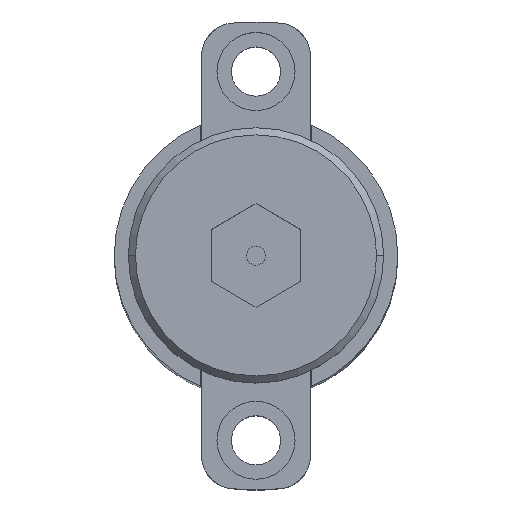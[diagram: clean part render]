
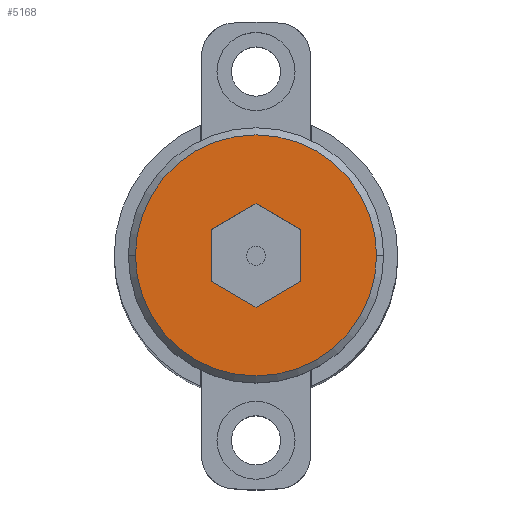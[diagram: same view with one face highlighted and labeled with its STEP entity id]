
A CAD part, top view. The second image highlights one B-rep face of the part: STEP entity #5168.
In plain terms, the highlighted planar face has unit normal (0, 0, 1).
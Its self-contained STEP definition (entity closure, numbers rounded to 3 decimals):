
#403 = LINE ( 'NONE', #8642, #9308 ) ;
#560 = LINE ( 'NONE', #14367, #6364 ) ;
#912 = CARTESIAN_POINT ( 'NONE',  ( 9.5, 5.485, 0. ) ) ;
#1443 = FACE_OUTER_BOUND ( 'NONE', #12398, .T. ) ;
#1773 = CARTESIAN_POINT ( 'NONE',  ( 9.5, 5.485, 0. ) ) ;
#1807 = FACE_BOUND ( 'NONE', #10822, .T. ) ;
#1939 = ORIENTED_EDGE ( 'NONE', *, *, #7110, .F. ) ;
#2616 = ORIENTED_EDGE ( 'NONE', *, *, #6272, .F. ) ;
#2798 = DIRECTION ( 'NONE',  ( 0.866, 0.5, 0. ) ) ;
#2914 = DIRECTION ( 'NONE',  ( 0., -1., 0. ) ) ;
#3087 = VECTOR ( 'NONE', #15045, 1000. ) ;
#3172 = EDGE_CURVE ( 'NONE', #14336, #12021, #403, .T. ) ;
#3197 = DIRECTION ( 'NONE',  ( 0.866, -0.5, 0. ) ) ;
#3394 = CARTESIAN_POINT ( 'NONE',  ( 9.5, -5.485, 0. ) ) ;
#3559 = DIRECTION ( 'NONE',  ( 0., 0., 1. ) ) ;
#3582 = DIRECTION ( 'NONE',  ( 0., 0., 1. ) ) ;
#4004 = VECTOR ( 'NONE', #9043, 1000. ) ;
#4133 = VERTEX_POINT ( 'NONE', #7351 ) ;
#4359 = LINE ( 'NONE', #912, #4004 ) ;
#4423 = CARTESIAN_POINT ( 'NONE',  ( 25.5, 0., 0. ) ) ;
#4625 = CARTESIAN_POINT ( 'NONE',  ( -9.5, -5.485, 0. ) ) ;
#4709 = AXIS2_PLACEMENT_3D ( 'NONE', #13792, #15002, #8005 ) ;
#4832 = ORIENTED_EDGE ( 'NONE', *, *, #6367, .T. ) ;
#4844 = CIRCLE ( 'NONE', #12052, 25.5 ) ;
#5168 = ADVANCED_FACE ( 'NONE', ( #1807, #1443 ), #6839, .F. ) ;
#5464 = VERTEX_POINT ( 'NONE', #9577 ) ;
#5554 = CARTESIAN_POINT ( 'NONE',  ( -25.5, 0., 0. ) ) ;
#5779 = CARTESIAN_POINT ( 'NONE',  ( 0., 10.97, 0. ) ) ;
#6189 = ORIENTED_EDGE ( 'NONE', *, *, #11869, .F. ) ;
#6272 = EDGE_CURVE ( 'NONE', #12625, #14175, #8551, .T. ) ;
#6364 = VECTOR ( 'NONE', #2798, 1000. ) ;
#6367 = EDGE_CURVE ( 'NONE', #13576, #7732, #13628, .T. ) ;
#6839 = PLANE ( 'NONE',  #4709 ) ;
#7110 = EDGE_CURVE ( 'NONE', #14175, #5464, #4359, .T. ) ;
#7232 = ORIENTED_EDGE ( 'NONE', *, *, #3172, .F. ) ;
#7351 = CARTESIAN_POINT ( 'NONE',  ( 0., -10.97, 0. ) ) ;
#7701 = ORIENTED_EDGE ( 'NONE', *, *, #12373, .F. ) ;
#7732 = VERTEX_POINT ( 'NONE', #4423 ) ;
#7864 = CARTESIAN_POINT ( 'NONE',  ( -9.5, -5.485, 0. ) ) ;
#8005 = DIRECTION ( 'NONE',  ( -1., 0., 0. ) ) ;
#8010 = DIRECTION ( 'NONE',  ( 0., 1., 0. ) ) ;
#8184 = VECTOR ( 'NONE', #8010, 1000. ) ;
#8551 = LINE ( 'NONE', #12669, #8184 ) ;
#8642 = CARTESIAN_POINT ( 'NONE',  ( -9.5, 5.485, 0. ) ) ;
#8851 = ORIENTED_EDGE ( 'NONE', *, *, #10316, .T. ) ;
#9043 = DIRECTION ( 'NONE',  ( -0.866, 0.5, 0. ) ) ;
#9148 = CARTESIAN_POINT ( 'NONE',  ( -9.5, 5.485, 0. ) ) ;
#9308 = VECTOR ( 'NONE', #2914, 1000. ) ;
#9577 = CARTESIAN_POINT ( 'NONE',  ( 0., 10.97, 0. ) ) ;
#10083 = AXIS2_PLACEMENT_3D ( 'NONE', #10522, #3559, #11683 ) ;
#10316 = EDGE_CURVE ( 'NONE', #7732, #13576, #4844, .T. ) ;
#10522 = CARTESIAN_POINT ( 'NONE',  ( 0., 0., 0. ) ) ;
#10551 = CARTESIAN_POINT ( 'NONE',  ( 0., 0., 0. ) ) ;
#10822 = EDGE_LOOP ( 'NONE', ( #12314, #1939, #2616, #7701, #6189, #7232 ) ) ;
#11135 = LINE ( 'NONE', #7864, #13832 ) ;
#11683 = DIRECTION ( 'NONE',  ( 1., 0., 0. ) ) ;
#11708 = DIRECTION ( 'NONE',  ( 1., 0., 0. ) ) ;
#11869 = EDGE_CURVE ( 'NONE', #12021, #4133, #11135, .T. ) ;
#12021 = VERTEX_POINT ( 'NONE', #4625 ) ;
#12052 = AXIS2_PLACEMENT_3D ( 'NONE', #10551, #3582, #11708 ) ;
#12314 = ORIENTED_EDGE ( 'NONE', *, *, #14403, .F. ) ;
#12373 = EDGE_CURVE ( 'NONE', #4133, #12625, #560, .T. ) ;
#12398 = EDGE_LOOP ( 'NONE', ( #4832, #8851 ) ) ;
#12625 = VERTEX_POINT ( 'NONE', #3394 ) ;
#12669 = CARTESIAN_POINT ( 'NONE',  ( 9.5, -5.485, 0. ) ) ;
#13576 = VERTEX_POINT ( 'NONE', #5554 ) ;
#13628 = CIRCLE ( 'NONE', #10083, 25.5 ) ;
#13792 = CARTESIAN_POINT ( 'NONE',  ( 0., 25.5, 0. ) ) ;
#13832 = VECTOR ( 'NONE', #3197, 1000. ) ;
#14175 = VERTEX_POINT ( 'NONE', #1773 ) ;
#14336 = VERTEX_POINT ( 'NONE', #9148 ) ;
#14367 = CARTESIAN_POINT ( 'NONE',  ( 0., -10.97, 0. ) ) ;
#14403 = EDGE_CURVE ( 'NONE', #5464, #14336, #15099, .T. ) ;
#15002 = DIRECTION ( 'NONE',  ( 0., 0., -1. ) ) ;
#15045 = DIRECTION ( 'NONE',  ( -0.866, -0.5, 0. ) ) ;
#15099 = LINE ( 'NONE', #5779, #3087 ) ;
